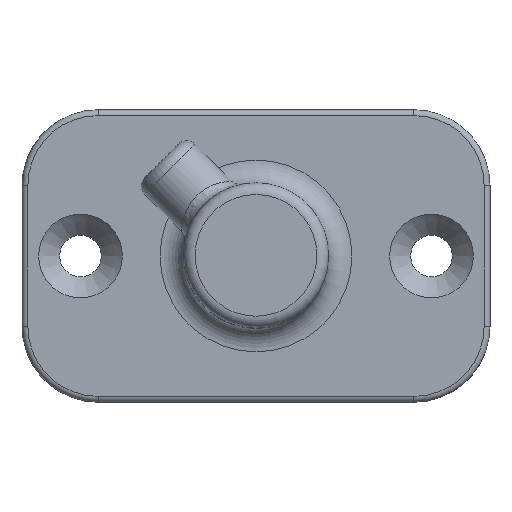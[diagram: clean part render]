
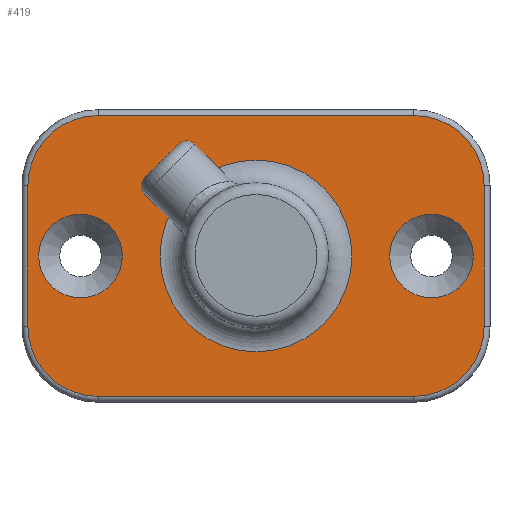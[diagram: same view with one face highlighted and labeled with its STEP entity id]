
A CAD part, top view. The second image highlights one B-rep face of the part: STEP entity #419.
In plain terms, the highlighted planar face has unit normal (0, 0, 1).
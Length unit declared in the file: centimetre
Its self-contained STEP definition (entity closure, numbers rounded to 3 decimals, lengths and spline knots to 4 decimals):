
#15=LINE($,#803,#35);
#16=LINE($,#807,#36);
#17=LINE($,#811,#37);
#18=LINE($,#814,#38);
#35=VECTOR($,#544,1.2);
#36=VECTOR($,#547,2.7);
#37=VECTOR($,#550,1.2);
#38=VECTOR($,#553,2.7);
#58=PLANE($,#458);
#84=FACE_BOUND($,#137,.T.);
#85=FACE_BOUND($,#138,.T.);
#86=FACE_BOUND($,#139,.T.);
#87=FACE_BOUND($,#140,.T.);
#137=EDGE_LOOP($,(#311));
#138=EDGE_LOOP($,(#312));
#139=EDGE_LOOP($,(#313,#314,#315,#316,#317,#318,#319,#320));
#140=EDGE_LOOP($,(#321));
#174=CIRCLE($,#457,0.82);
#175=CIRCLE($,#459,0.3578);
#176=CIRCLE($,#460,0.3578);
#177=CIRCLE($,#461,0.6);
#178=CIRCLE($,#462,0.6);
#179=CIRCLE($,#463,0.6);
#180=CIRCLE($,#464,0.6);
#208=VERTEX_POINT($,#792);
#209=VERTEX_POINT($,#795);
#210=VERTEX_POINT($,#797);
#211=VERTEX_POINT($,#799);
#212=VERTEX_POINT($,#800);
#213=VERTEX_POINT($,#802);
#214=VERTEX_POINT($,#804);
#215=VERTEX_POINT($,#806);
#216=VERTEX_POINT($,#808);
#217=VERTEX_POINT($,#810);
#218=VERTEX_POINT($,#812);
#247=EDGE_CURVE($,#208,#208,#174,.T.);
#248=EDGE_CURVE($,#209,#209,#175,.T.);
#249=EDGE_CURVE($,#210,#210,#176,.T.);
#250=EDGE_CURVE($,#211,#212,#177,.T.);
#251=EDGE_CURVE($,#213,#211,#15,.T.);
#252=EDGE_CURVE($,#214,#213,#178,.T.);
#253=EDGE_CURVE($,#215,#214,#16,.T.);
#254=EDGE_CURVE($,#216,#215,#179,.T.);
#255=EDGE_CURVE($,#217,#216,#17,.T.);
#256=EDGE_CURVE($,#218,#217,#180,.T.);
#257=EDGE_CURVE($,#212,#218,#18,.T.);
#311=ORIENTED_EDGE($,*,*,#248,.F.);
#312=ORIENTED_EDGE($,*,*,#249,.F.);
#313=ORIENTED_EDGE($,*,*,#250,.F.);
#314=ORIENTED_EDGE($,*,*,#251,.F.);
#315=ORIENTED_EDGE($,*,*,#252,.F.);
#316=ORIENTED_EDGE($,*,*,#253,.F.);
#317=ORIENTED_EDGE($,*,*,#254,.F.);
#318=ORIENTED_EDGE($,*,*,#255,.F.);
#319=ORIENTED_EDGE($,*,*,#256,.F.);
#320=ORIENTED_EDGE($,*,*,#257,.F.);
#321=ORIENTED_EDGE($,*,*,#247,.F.);
#419=ADVANCED_FACE($,(#84,#85,#86,#87),#58,.T.);
#457=AXIS2_PLACEMENT_3D($,#793,#534,#535);
#458=AXIS2_PLACEMENT_3D($,#794,#536,#537);
#459=AXIS2_PLACEMENT_3D($,#796,#538,#539);
#460=AXIS2_PLACEMENT_3D($,#798,#540,#541);
#461=AXIS2_PLACEMENT_3D($,#801,#542,#543);
#462=AXIS2_PLACEMENT_3D($,#805,#545,#546);
#463=AXIS2_PLACEMENT_3D($,#809,#548,#549);
#464=AXIS2_PLACEMENT_3D($,#813,#551,#552);
#534=DIRECTION('center_axis',(0.,0.,1.));
#535=DIRECTION('ref_axis',(-1.,0.,0.));
#536=DIRECTION('center_axis',(0.,0.,1.));
#537=DIRECTION('ref_axis',(1.,0.,0.));
#538=DIRECTION('center_axis',(0.,0.,1.));
#539=DIRECTION('ref_axis',(1.,0.,0.));
#540=DIRECTION('center_axis',(0.,0.,1.));
#541=DIRECTION('ref_axis',(1.,0.,0.));
#542=DIRECTION('center_axis',(0.,0.,-1.));
#543=DIRECTION('ref_axis',(-0.707,0.707,0.));
#544=DIRECTION($,(0.,1.,0.));
#545=DIRECTION('center_axis',(0.,0.,-1.));
#546=DIRECTION('ref_axis',(-0.707,-0.707,0.));
#547=DIRECTION($,(-1.,0.,0.));
#548=DIRECTION('center_axis',(0.,0.,-1.));
#549=DIRECTION('ref_axis',(0.707,-0.707,0.));
#550=DIRECTION($,(0.,-1.,0.));
#551=DIRECTION('center_axis',(0.,0.,-1.));
#552=DIRECTION('ref_axis',(0.707,0.707,0.));
#553=DIRECTION($,(1.,0.,0.));
#792=CARTESIAN_POINT('',(-1.68,2.5,0.));
#793=CARTESIAN_POINT('Origin',(-2.5,2.5,0.));
#794=CARTESIAN_POINT('Origin',(-2.5,2.5,0.));
#795=CARTESIAN_POINT('',(-4.3578,2.5,0.));
#796=CARTESIAN_POINT('Origin',(-4.,2.5,0.));
#797=CARTESIAN_POINT('',(-1.3578,2.5,0.));
#798=CARTESIAN_POINT('Origin',(-1.,2.5,0.));
#799=CARTESIAN_POINT('',(-4.45,3.1,0.));
#800=CARTESIAN_POINT('',(-3.85,3.7,0.));
#801=CARTESIAN_POINT('Origin',(-3.85,3.1,0.));
#802=CARTESIAN_POINT('',(-4.45,1.9,0.));
#803=CARTESIAN_POINT($,(-4.45,1.875,0.));
#804=CARTESIAN_POINT('',(-3.85,1.3,0.));
#805=CARTESIAN_POINT('Origin',(-3.85,1.9,0.));
#806=CARTESIAN_POINT('',(-1.15,1.3,0.));
#807=CARTESIAN_POINT($,(-1.5,1.3,0.));
#808=CARTESIAN_POINT('',(-0.55,1.9,0.));
#809=CARTESIAN_POINT('Origin',(-1.15,1.9,0.));
#810=CARTESIAN_POINT('',(-0.55,3.1,0.));
#811=CARTESIAN_POINT($,(-0.55,3.125,0.));
#812=CARTESIAN_POINT('',(-1.15,3.7,0.));
#813=CARTESIAN_POINT('Origin',(-1.15,3.1,0.));
#814=CARTESIAN_POINT($,(-3.5,3.7,0.));
